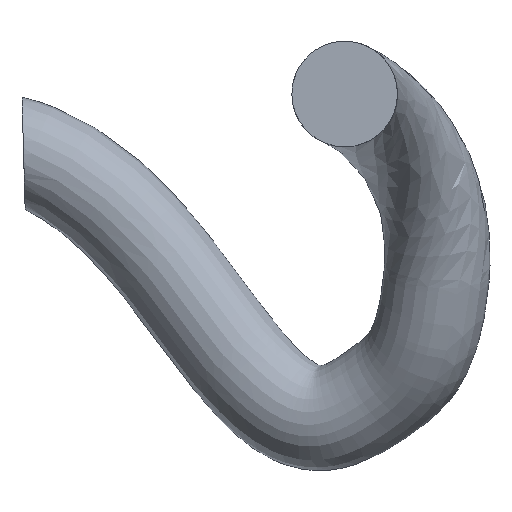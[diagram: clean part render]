
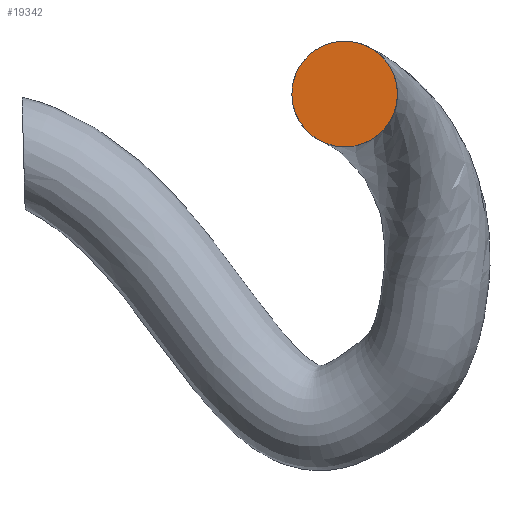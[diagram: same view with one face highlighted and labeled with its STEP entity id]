
A CAD part, front view. The second image highlights one B-rep face of the part: STEP entity #19342.
In plain terms, the highlighted planar face has unit normal (0, -1, 0).
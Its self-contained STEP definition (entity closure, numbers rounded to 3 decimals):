
#7568 = DIRECTION ( 'NONE',  ( -0.001, 0., 1. ) ) ;
#8413 = DIRECTION ( 'NONE',  ( -0.001, 0., 1. ) ) ;
#9132 = CARTESIAN_POINT ( 'NONE',  ( 2064.937, -84.598, 2610. ) ) ;
#11262 = CARTESIAN_POINT ( 'NONE',  ( 2065., -84.598, 2567. ) ) ;
#12443 = EDGE_CURVE ( 'NONE', #30398, #30398, #35821, .T. ) ;
#16080 = PLANE ( 'NONE',  #18622 ) ;
#16646 = DIRECTION ( 'NONE',  ( 0., 1., 0. ) ) ;
#16708 = ORIENTED_EDGE ( 'NONE', *, *, #12443, .F. ) ;
#16929 = FACE_OUTER_BOUND ( 'NONE', #37973, .T. ) ;
#18622 = AXIS2_PLACEMENT_3D ( 'NONE', #38194, #34221, #7568 ) ;
#19342 = ADVANCED_FACE ( 'NONE', ( #16929 ), #16080, .F. ) ;
#30398 = VERTEX_POINT ( 'NONE', #9132 ) ;
#34221 = DIRECTION ( 'NONE',  ( 0., 1., 0. ) ) ;
#35821 = CIRCLE ( 'NONE', #42122, 43. ) ;
#37973 = EDGE_LOOP ( 'NONE', ( #16708 ) ) ;
#38194 = CARTESIAN_POINT ( 'NONE',  ( 2065., -84.598, 2567. ) ) ;
#42122 = AXIS2_PLACEMENT_3D ( 'NONE', #11262, #16646, #8413 ) ;
